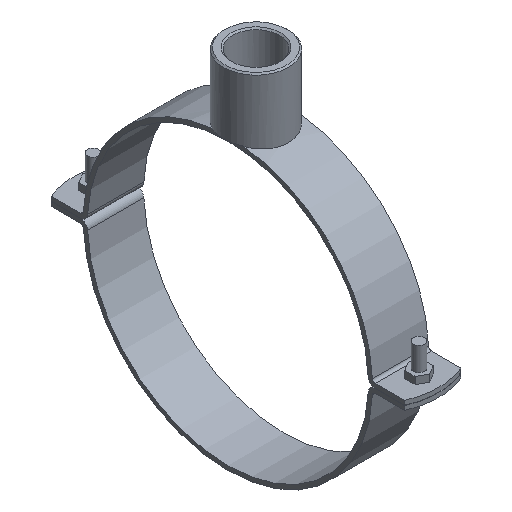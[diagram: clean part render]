
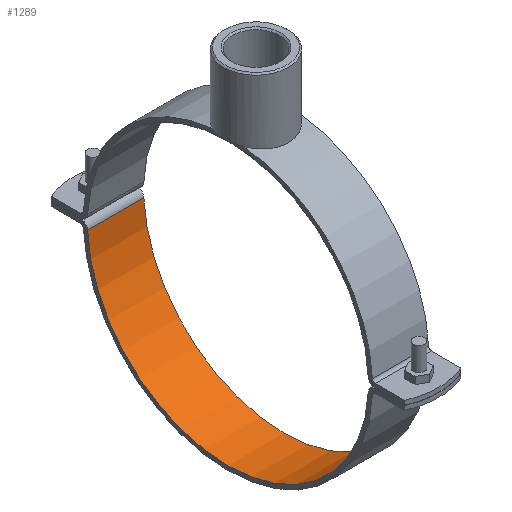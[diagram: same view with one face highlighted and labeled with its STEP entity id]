
A CAD part, isometric view. The second image highlights one B-rep face of the part: STEP entity #1289.
In plain terms, the highlighted cylindrical face has radius 100 mm (diameter 200 mm), a partial arc.
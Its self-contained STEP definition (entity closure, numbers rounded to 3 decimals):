
#114=LINE('',#2230,#226);
#115=LINE('',#2236,#227);
#226=VECTOR('',#1728,40.);
#227=VECTOR('',#1735,40.);
#265=CYLINDRICAL_SURFACE('',#1405,100.);
#396=FACE_OUTER_BOUND('',#482,.T.);
#482=EDGE_LOOP('',(#1097,#1098,#1099,#1100));
#534=CIRCLE('',#1406,100.);
#535=CIRCLE('',#1407,100.);
#644=VERTEX_POINT('',#2228);
#645=VERTEX_POINT('',#2229);
#646=VERTEX_POINT('',#2234);
#647=VERTEX_POINT('',#2235);
#801=EDGE_CURVE('',#644,#645,#114,.T.);
#804=EDGE_CURVE('',#646,#647,#115,.T.);
#805=EDGE_CURVE('',#644,#646,#534,.T.);
#806=EDGE_CURVE('',#647,#645,#535,.T.);
#1097=ORIENTED_EDGE('',*,*,#804,.F.);
#1098=ORIENTED_EDGE('',*,*,#805,.F.);
#1099=ORIENTED_EDGE('',*,*,#801,.T.);
#1100=ORIENTED_EDGE('',*,*,#806,.F.);
#1289=ADVANCED_FACE('',(#396),#265,.F.);
#1405=AXIS2_PLACEMENT_3D('',#2233,#1733,#1734);
#1406=AXIS2_PLACEMENT_3D('',#2237,#1736,#1737);
#1407=AXIS2_PLACEMENT_3D('',#2238,#1738,#1739);
#1728=DIRECTION('',(-1.,0.,0.));
#1733=DIRECTION('center_axis',(1.,0.,0.));
#1734=DIRECTION('ref_axis',(0.,-0.999,-0.049));
#1735=DIRECTION('',(-1.,0.,0.));
#1736=DIRECTION('center_axis',(-1.,0.,0.));
#1737=DIRECTION('ref_axis',(0.,-0.999,-0.049));
#1738=DIRECTION('center_axis',(1.,0.,0.));
#1739=DIRECTION('ref_axis',(0.,-0.999,-0.049));
#2228=CARTESIAN_POINT('',(20.,99.882,-4.857));
#2229=CARTESIAN_POINT('',(-20.,99.882,-4.857));
#2230=CARTESIAN_POINT('',(0.,99.882,-4.857));
#2233=CARTESIAN_POINT('Origin',(0.,0.,0.));
#2234=CARTESIAN_POINT('',(20.,-99.882,-4.857));
#2235=CARTESIAN_POINT('',(-20.,-99.882,-4.857));
#2236=CARTESIAN_POINT('',(0.,-99.882,-4.857));
#2237=CARTESIAN_POINT('Origin',(20.,0.,0.));
#2238=CARTESIAN_POINT('Origin',(-20.,0.,0.));
